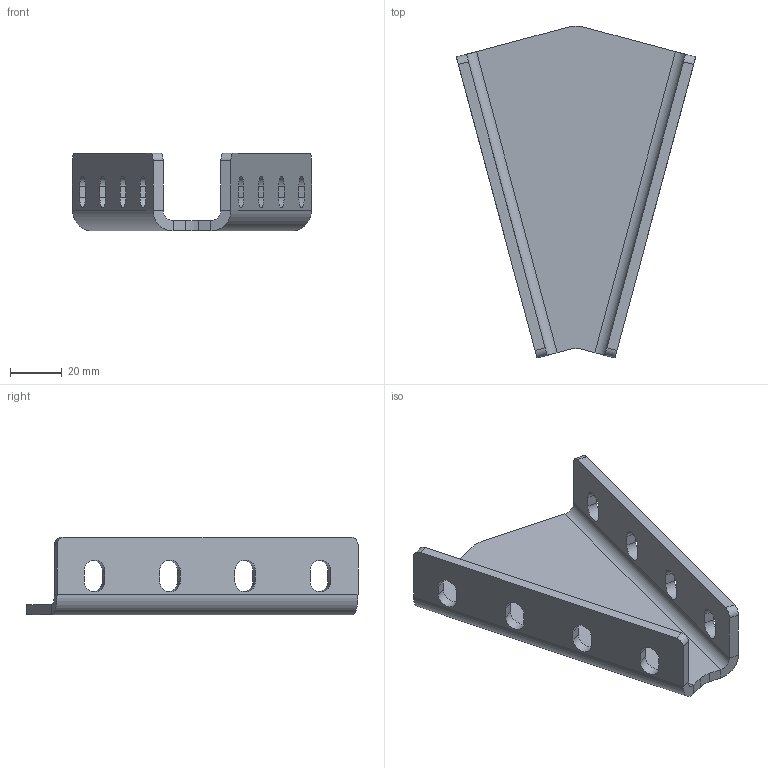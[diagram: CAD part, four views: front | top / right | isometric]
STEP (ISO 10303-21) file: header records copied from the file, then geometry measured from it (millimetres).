
FILE_DESCRIPTION (( 'STEP AP214' ), '1' );
FILE_NAME ('3012030.STEP', '2019-11-01T13:40:46', ( '' ), ( '' ), 'SwSTEP 2.0', 'SolidWorks 2014', '' );
FILE_SCHEMA (( 'AUTOMOTIVE_DESIGN' ));
Length unit declared in the file: millimetre
Products named in the file (2): 3012030
Bounding box: 92.12 x 127.86 x 30 mm (x, y, z)
Volume: 50059.2 mm3; surface area: 27928.9 mm2
Topology: 1 solids, 1 shells, 62 faces, 164 edges, 104 vertices
Faces by surface type: plane 36, cylinder 26
Entity records: 1993 total; most frequent: DIRECTION 344, CARTESIAN_POINT 332, ORIENTED_EDGE 328, EDGE_CURVE 164, AXIS2_PLACEMENT_3D 116, LINE 112, VECTOR 112, VERTEX_POINT 104
